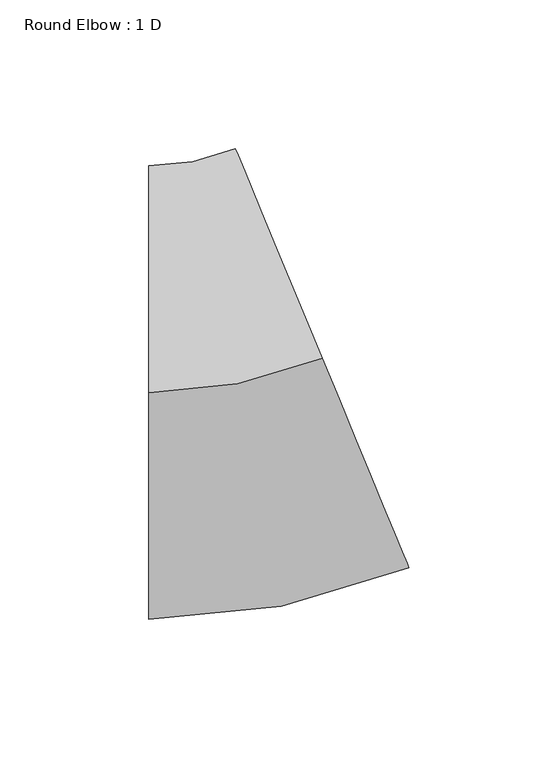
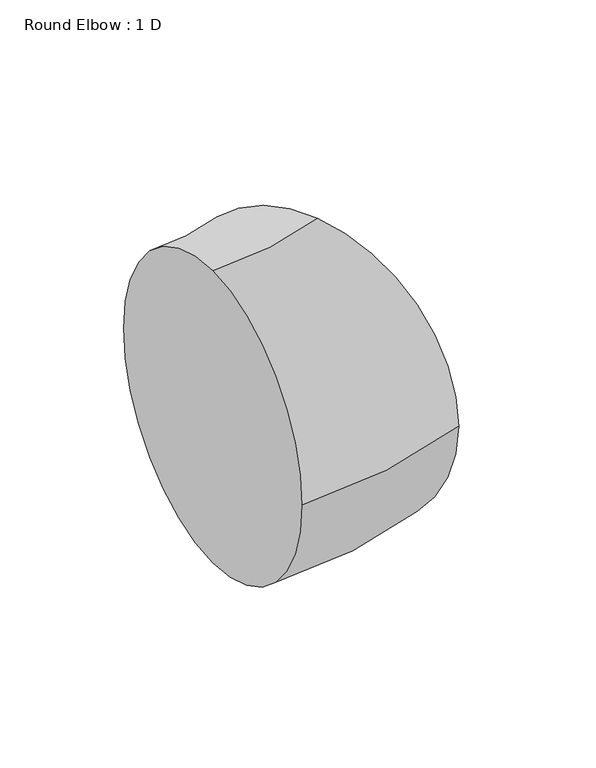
"""IFC4 building model written with IfcOpenShell, lengths in millimetres: duct fitting geometry, Round Elbow : 1 D."""

from ifc_helpers import new_model, si_unit, point, frame, origin, place, context, project, spatial, circle_curve, ellipse_curve, trimmed, source, transform, mapped, element, save
from ifc_brep_helpers import plane_surface, revolved_surface, advanced_brep


def round_elbow_1_d_147a1fa0(model_context):
    return source(origin(), model_context, "Body", "AdvancedBrep", [
        advanced_brep(
        [(-30.3142728, 0.0, 76.2), (-30.3142728, 76.2, 0.0), (-30.3142728, 0.0, -76.2), (-30.3142728, -76.2, 0.0), (28.0067321, 11.6007799, 76.2), (57.1672345, -58.7988302, 0.0), (28.0067321, 11.6007799, -76.2), (-1.1537704, 82.0003899, 0.0)],
        [
            (0, 1, circle_curve(frame((-30.3142728, 0.0, 0.0), z_axis=(-1.0, 0.0, 0.0), x_axis=(0.0, 1.0, 0.0)), 76.2)),
            (1, 2, circle_curve(frame((-30.3142728, 0.0, 0.0), z_axis=(-1.0, 0.0, 0.0), x_axis=(0.0, 1.0, 0.0)), 76.2)),
            (2, 3, circle_curve(frame((-30.3142728, 0.0, 0.0), z_axis=(-1.0, 0.0, 0.0), x_axis=(0.0, 1.0, 0.0)), 76.2)),
            (3, 0, circle_curve(frame((-30.3142728, 0.0, 0.0), z_axis=(-1.0, 0.0, 0.0), x_axis=(0.0, 1.0, 0.0)), 76.2)),
            (4, 5, circle_curve(frame((28.0067321, 11.6007799, 0.0), z_axis=(0.9238793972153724, 0.382683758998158, 0.0), x_axis=(-0.382683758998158, 0.9238793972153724, 0.0)), 76.2)),
            (5, 6, circle_curve(frame((28.0067321, 11.6007799, 0.0), z_axis=(0.9238793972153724, 0.382683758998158, 0.0), x_axis=(-0.382683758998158, 0.9238793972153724, 0.0)), 76.2)),
            (6, 7, circle_curve(frame((28.0067321, 11.6007799, 0.0), z_axis=(0.9238793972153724, 0.382683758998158, 0.0), x_axis=(-0.382683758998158, 0.9238793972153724, 0.0)), 76.2)),
            (7, 4, circle_curve(frame((28.0067321, 11.6007799, 0.0), z_axis=(0.9238793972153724, 0.382683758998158, 0.0), x_axis=(-0.382683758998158, 0.9238793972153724, 0.0)), 76.2)),
            (7, 1, circle_curve(frame((-30.3142728, 152.4, 0.0), z_axis=(0.0, 0.0, -1.0), x_axis=(0.0, -1.0, 0.0)), 76.2)),
            (0, 4, circle_curve(frame((-30.3142728, 152.4, 76.2), z_axis=(0.0, 0.0, 1.0), x_axis=(0.0, -1.0, 0.0)), 152.4)),
            (6, 2, circle_curve(frame((-30.3142728, 152.4, -76.2), z_axis=(0.0, 0.0, -1.0), x_axis=(0.0, -1.0, 0.0)), 152.4)),
            (5, 3, circle_curve(frame((-30.3142728, 152.4, 0.0), z_axis=(0.0, 0.0, -1.0), x_axis=(0.0, -1.0, 0.0)), 228.6)),
        ],
        [
            plane_surface(frame((-30.3142728, 0.0, 0.0), z_axis=(-1.0, 0.0, 0.0), x_axis=(0.0, 0.0, 1.0))),
            plane_surface(frame((28.0067321, 11.6007799, 0.0), z_axis=(0.9238793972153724, 0.382683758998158, 0.0), x_axis=(0.0, 0.0, 1.0))),
            revolved_surface(trimmed(ellipse_curve(frame((-30.3142728, 0.0, 0.0), z_axis=(-1.0, 0.0, 0.0), x_axis=(0.0, 1.0, 0.0)), 76.2, 76.2), [point((-30.3142728, 0.0, 76.2))], [point((-30.3142728, 76.2, 0.0))], True, "CARTESIAN"), (-30.3142728, 152.4, 0.0), (0.0, 0.0, 1.0)),
            revolved_surface(trimmed(ellipse_curve(frame((-30.3142728, 0.0, 0.0), z_axis=(-1.0, 0.0, 0.0), x_axis=(0.0, 1.0, 0.0)), 76.2, 76.2), [point((-30.3142728, 76.2, 0.0))], [point((-30.3142728, 0.0, -76.2))], True, "CARTESIAN"), (-30.3142728, 152.4, 0.0), (0.0, 0.0, 1.0)),
            revolved_surface(trimmed(ellipse_curve(frame((-30.3142728, 0.0, 0.0), z_axis=(-1.0, 0.0, 0.0), x_axis=(0.0, 1.0, 0.0)), 76.2, 76.2), [point((-30.3142728, 0.0, -76.2))], [point((-30.3142728, -76.2, 0.0))], True, "CARTESIAN"), (-30.3142728, 152.4, 0.0), (0.0, 0.0, 1.0)),
            revolved_surface(trimmed(ellipse_curve(frame((-30.3142728, 0.0, 0.0), z_axis=(-1.0, 0.0, 0.0), x_axis=(0.0, 1.0, 0.0)), 76.2, 76.2), [point((-30.3142728, -76.2, 0.0))], [point((-30.3142728, 0.0, 76.2))], True, "CARTESIAN"), (-30.3142728, 152.4, 0.0), (0.0, 0.0, 1.0)),
        ],
        [
            (0, [[1, 2, 3, 4]]),
            (1, [[5, 6, 7, 8]]),
            (2, [[9, -1, 10, -8]]),
            (3, [[11, -2, -9, -7]]),
            (4, [[12, -3, -11, -6]]),
            (5, [[-10, -4, -12, -5]]),
        ],
    ),
    ])


if __name__ == "__main__":
    model = new_model("IFC4")
    model_context = context("Model", 3, world=origin())
    ifc_project = project(units=[si_unit("LENGTHUNIT", "METRE", prefix="MILLI")], contexts=[model_context])
    site = spatial("IfcSite", under=ifc_project)
    building = spatial("IfcBuilding", under=site)
    placement = place(None, origin())
    round_elbow_1_d_shape = round_elbow_1_d_147a1fa0(model_context)
    element("IfcDuctFitting", 1, ObjectType="Round Elbow : 1 D", at=placement, inside=building, context=model_context, shape_type="MappedRepresentation", body=[
        mapped(round_elbow_1_d_shape, transform((0.0, 0.0, 0.0), x_axis=(1.0, 0.0, 0.0), y_axis=(0.0, 1.0, 0.0), z_axis=(0.0, 0.0, 1.0))),
    ])
    save(model, "model.ifc")
